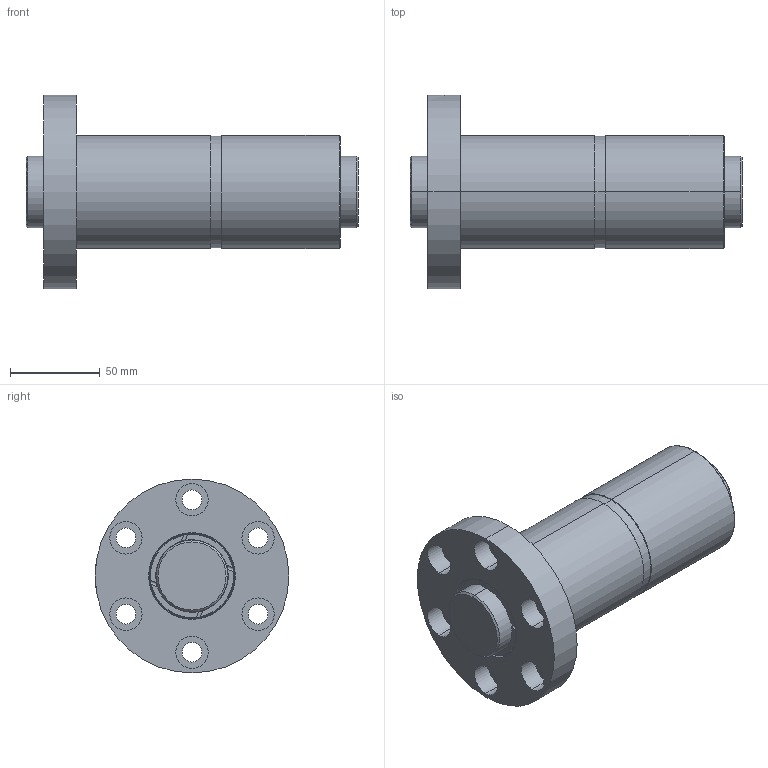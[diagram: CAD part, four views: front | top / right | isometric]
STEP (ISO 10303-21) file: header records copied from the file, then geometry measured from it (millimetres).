
FILE_DESCRIPTION (( 'STEP AP203' ), '1' );
FILE_NAME ('DFZR04010T4N-C.STEP', '2020-06-18T01:24:19', ( '' ), ( '' ), 'SwSTEP 2.0', 'SolidWorks 2013', '' );
FILE_SCHEMA (( 'CONFIG_CONTROL_DESIGN' ));
Length unit declared in the file: millimetre
Products named in the file (1): DFZR04010T4N-C
Bounding box: 185 x 108 x 108 mm (x, y, z)
Volume: 607298.1 mm3; surface area: 107317.2 mm2
Topology: 2 solids, 2 shells, 128 faces, 304 edges, 194 vertices
Faces by surface type: cylinder 74, plane 30, torus 20, cone 4
Entity records: 4237 total; most frequent: CARTESIAN_POINT 1089, DIRECTION 692, ORIENTED_EDGE 608, AXIS2_PLACEMENT_3D 305, EDGE_CURVE 304, VERTEX_POINT 194, CIRCLE 176, EDGE_LOOP 160
